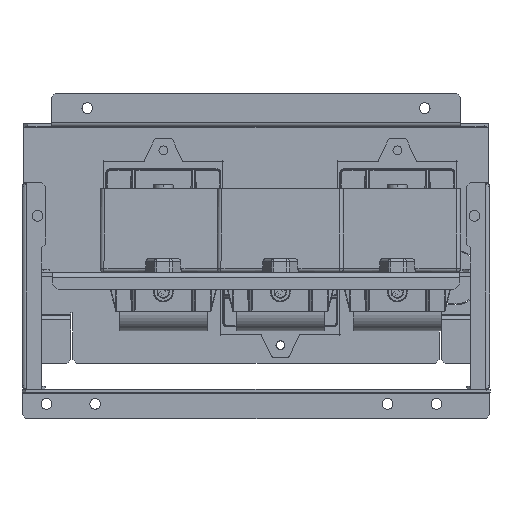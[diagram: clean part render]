
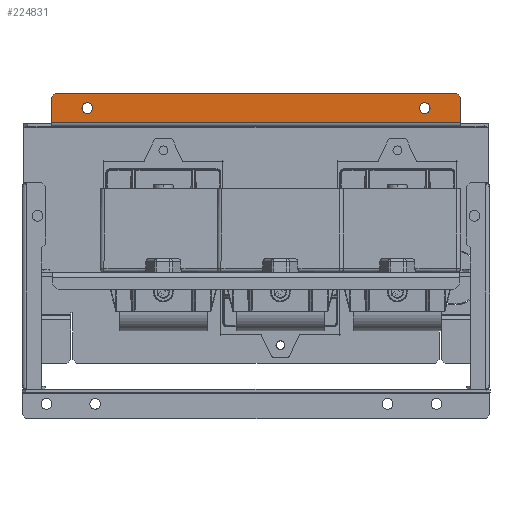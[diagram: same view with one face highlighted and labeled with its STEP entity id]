
A CAD part, left-side view. The second image highlights one B-rep face of the part: STEP entity #224831.
In plain terms, the highlighted planar face has unit normal (-1, 0, 0) as drawn and (0, 0, -1) by its records, which use the part's own axes.
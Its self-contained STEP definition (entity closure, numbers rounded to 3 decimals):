
#223786=CARTESIAN_POINT(' ',(-63.1,-155.,-12.5));
#223787=VERTEX_POINT(' ',#223786);
#223801=CARTESIAN_POINT(' ',(-63.1,-155.,-12.5));
#223806=DIRECTION(' ',(0.,1.,0.));
#223811=VECTOR(' ',#223806,1.);
#223816=LINE('',#223801,#223811);
#223821=CARTESIAN_POINT(' ',(-63.1,55.,-12.5));
#223822=VERTEX_POINT(' ',#223821);
#223826=EDGE_CURVE(' ',#223787,#223822,#223816,.T.);
#224441=DIRECTION(' ',(0.,0.,-1.));
#224446=CARTESIAN_POINT(' ',(-78.,-155.,-12.5));
#224451=DIRECTION(' ',(0.,1.,0.));
#224456=AXIS2_PLACEMENT_3D(' ',#224446,#224441,#224451);
#224461=PLANE('NONE',#224456);
#224466=CARTESIAN_POINT(' ',(-78.,-153.,-12.5));
#224471=DIRECTION(' ',(0.,1.,0.));
#224476=VECTOR(' ',#224471,1.);
#224481=LINE('',#224466,#224476);
#224486=CARTESIAN_POINT(' ',(-78.,-153.,-12.5));
#224487=VERTEX_POINT(' ',#224486);
#224491=CARTESIAN_POINT(' ',(-78.,53.,-12.5));
#224492=VERTEX_POINT(' ',#224491);
#224496=EDGE_CURVE(' ',#224487,#224492,#224481,.T.);
#224501=ORIENTED_EDGE(' ',*,*,#224496,.T.);
#224506=CARTESIAN_POINT(' ',(-78.,53.,-12.5));
#224511=DIRECTION(' ',(0.707,0.707,0.));
#224516=VECTOR(' ',#224511,1.);
#224521=LINE('',#224506,#224516);
#224526=CARTESIAN_POINT(' ',(-76.,55.,-12.5));
#224527=VERTEX_POINT(' ',#224526);
#224531=EDGE_CURVE(' ',#224492,#224527,#224521,.T.);
#224536=ORIENTED_EDGE(' ',*,*,#224531,.T.);
#224541=CARTESIAN_POINT(' ',(-76.,55.,-12.5));
#224546=DIRECTION(' ',(1.,0.,0.));
#224551=VECTOR(' ',#224546,1.);
#224556=LINE('',#224541,#224551);
#224561=EDGE_CURVE(' ',#224527,#223822,#224556,.T.);
#224566=ORIENTED_EDGE(' ',*,*,#224561,.T.);
#224571=ORIENTED_EDGE(' ',*,*,#223826,.F.);
#224576=CARTESIAN_POINT(' ',(-63.1,-155.,-12.5));
#224581=DIRECTION(' ',(-1.,0.,0.));
#224586=VECTOR(' ',#224581,1.);
#224591=LINE('',#224576,#224586);
#224596=CARTESIAN_POINT(' ',(-76.,-155.,-12.5));
#224597=VERTEX_POINT(' ',#224596);
#224601=EDGE_CURVE(' ',#223787,#224597,#224591,.T.);
#224606=ORIENTED_EDGE(' ',*,*,#224601,.T.);
#224611=CARTESIAN_POINT(' ',(-76.,-155.,-12.5));
#224616=DIRECTION(' ',(-0.707,0.707,0.));
#224621=VECTOR(' ',#224616,1.);
#224626=LINE('',#224611,#224621);
#224631=EDGE_CURVE(' ',#224597,#224487,#224626,.T.);
#224636=ORIENTED_EDGE(' ',*,*,#224631,.T.);
#224641=EDGE_LOOP(' ',(#224501,#224536,#224566,#224571,#224606,#224636));
#224646=FACE_OUTER_BOUND(' ',#224641,.T.);
#224651=CARTESIAN_POINT(' ',(-70.5,-136.5,-12.5));
#224656=DIRECTION(' ',(0.,0.,1.));
#224661=DIRECTION(' ',(1.,0.,0.));
#224666=AXIS2_PLACEMENT_3D(' ',#224651,#224656,#224661);
#224671=CIRCLE('',#224666,2.75);
#224676=CARTESIAN_POINT(' ',(-67.75,-136.5,-12.5));
#224677=VERTEX_POINT(' ',#224676);
#224681=CARTESIAN_POINT(' ',(-73.25,-136.5,-12.5));
#224682=VERTEX_POINT(' ',#224681);
#224686=EDGE_CURVE(' ',#224677,#224682,#224671,.T.);
#224691=ORIENTED_EDGE(' ',*,*,#224686,.T.);
#224696=CARTESIAN_POINT(' ',(-70.5,-136.5,-12.5));
#224701=DIRECTION(' ',(0.,0.,1.));
#224706=DIRECTION(' ',(-1.,0.,0.));
#224711=AXIS2_PLACEMENT_3D(' ',#224696,#224701,#224706);
#224716=CIRCLE('',#224711,2.75);
#224721=EDGE_CURVE(' ',#224682,#224677,#224716,.T.);
#224726=ORIENTED_EDGE(' ',*,*,#224721,.T.);
#224731=EDGE_LOOP(' ',(#224691,#224726));
#224736=FACE_BOUND(' ',#224731,.T.);
#224741=CARTESIAN_POINT(' ',(-70.5,36.5,-12.5));
#224746=DIRECTION(' ',(0.,0.,1.));
#224751=DIRECTION(' ',(1.,0.,0.));
#224756=AXIS2_PLACEMENT_3D(' ',#224741,#224746,#224751);
#224761=CIRCLE('',#224756,2.75);
#224766=CARTESIAN_POINT(' ',(-67.75,36.5,-12.5));
#224767=VERTEX_POINT(' ',#224766);
#224771=CARTESIAN_POINT(' ',(-73.25,36.5,-12.5));
#224772=VERTEX_POINT(' ',#224771);
#224776=EDGE_CURVE(' ',#224767,#224772,#224761,.T.);
#224781=ORIENTED_EDGE(' ',*,*,#224776,.T.);
#224786=CARTESIAN_POINT(' ',(-70.5,36.5,-12.5));
#224791=DIRECTION(' ',(0.,0.,1.));
#224796=DIRECTION(' ',(-1.,0.,0.));
#224801=AXIS2_PLACEMENT_3D(' ',#224786,#224791,#224796);
#224806=CIRCLE('',#224801,2.75);
#224811=EDGE_CURVE(' ',#224772,#224767,#224806,.T.);
#224816=ORIENTED_EDGE(' ',*,*,#224811,.T.);
#224821=EDGE_LOOP(' ',(#224781,#224816));
#224826=FACE_BOUND(' ',#224821,.T.);
#224831=ADVANCED_FACE('NONE',(#224646,#224736,#224826),#224461,.T.);
